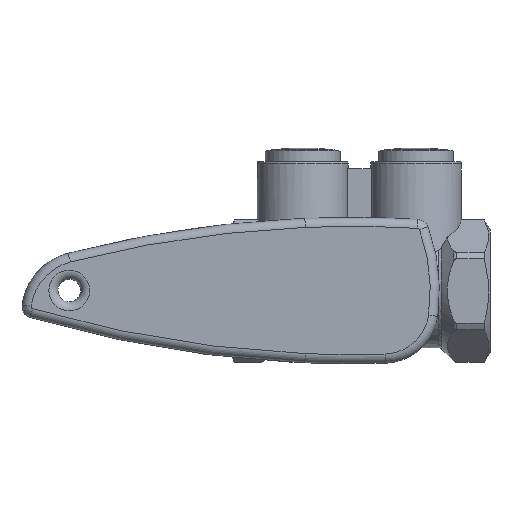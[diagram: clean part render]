
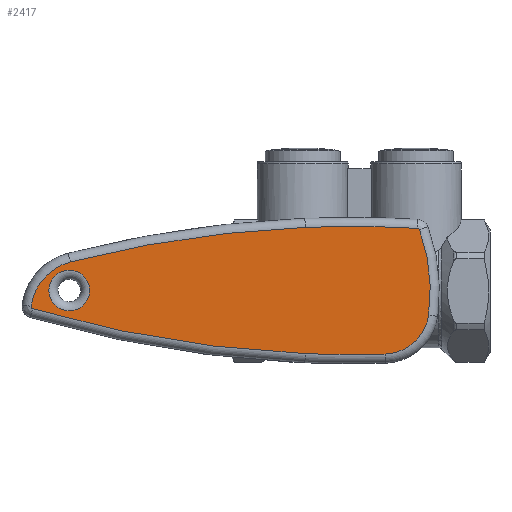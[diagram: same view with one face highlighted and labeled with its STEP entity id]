
A CAD part, top view. The second image highlights one B-rep face of the part: STEP entity #2417.
In plain terms, the highlighted planar face has unit normal (0, 0, 1).
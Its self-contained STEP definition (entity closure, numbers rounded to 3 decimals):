
#148=FACE_BOUND('',#438,.T.);
#180=PLANE('',#2722);
#286=FACE_OUTER_BOUND('',#437,.T.);
#437=EDGE_LOOP('',(#2069,#2070,#2071,#2072,#2073,#2074,#2075,#2076,#2077));
#438=EDGE_LOOP('',(#2078));
#616=CIRCLE('',#2719,4.498);
#619=CIRCLE('',#2723,252.306);
#620=CIRCLE('',#2724,11.669);
#621=CIRCLE('',#2725,0.5);
#622=CIRCLE('',#2726,252.163);
#623=CIRCLE('',#2727,251.926);
#624=CIRCLE('',#2728,9.993);
#625=CIRCLE('',#2729,38.627);
#626=CIRCLE('',#2730,0.5);
#627=CIRCLE('',#2731,251.926);
#1093=VERTEX_POINT('',#4530);
#1095=VERTEX_POINT('',#4536);
#1096=VERTEX_POINT('',#4537);
#1097=VERTEX_POINT('',#4539);
#1098=VERTEX_POINT('',#4541);
#1099=VERTEX_POINT('',#4543);
#1100=VERTEX_POINT('',#4545);
#1101=VERTEX_POINT('',#4547);
#1102=VERTEX_POINT('',#4549);
#1103=VERTEX_POINT('',#4551);
#1430=EDGE_CURVE('',#1093,#1093,#616,.T.);
#1433=EDGE_CURVE('',#1095,#1096,#619,.T.);
#1434=EDGE_CURVE('',#1097,#1095,#620,.T.);
#1435=EDGE_CURVE('',#1098,#1097,#621,.T.);
#1436=EDGE_CURVE('',#1099,#1098,#622,.T.);
#1437=EDGE_CURVE('',#1100,#1099,#623,.T.);
#1438=EDGE_CURVE('',#1101,#1100,#624,.T.);
#1439=EDGE_CURVE('',#1102,#1101,#625,.T.);
#1440=EDGE_CURVE('',#1103,#1102,#626,.T.);
#1441=EDGE_CURVE('',#1096,#1103,#627,.T.);
#2069=ORIENTED_EDGE('',*,*,#1433,.F.);
#2070=ORIENTED_EDGE('',*,*,#1434,.F.);
#2071=ORIENTED_EDGE('',*,*,#1435,.F.);
#2072=ORIENTED_EDGE('',*,*,#1436,.F.);
#2073=ORIENTED_EDGE('',*,*,#1437,.F.);
#2074=ORIENTED_EDGE('',*,*,#1438,.F.);
#2075=ORIENTED_EDGE('',*,*,#1439,.F.);
#2076=ORIENTED_EDGE('',*,*,#1440,.F.);
#2077=ORIENTED_EDGE('',*,*,#1441,.F.);
#2078=ORIENTED_EDGE('',*,*,#1430,.F.);
#2417=ADVANCED_FACE('',(#286,#148),#180,.T.);
#2719=AXIS2_PLACEMENT_3D('',#4531,#3360,#3361);
#2722=AXIS2_PLACEMENT_3D('',#4535,#3366,#3367);
#2723=AXIS2_PLACEMENT_3D('',#4538,#3368,#3369);
#2724=AXIS2_PLACEMENT_3D('',#4540,#3370,#3371);
#2725=AXIS2_PLACEMENT_3D('',#4542,#3372,#3373);
#2726=AXIS2_PLACEMENT_3D('',#4544,#3374,#3375);
#2727=AXIS2_PLACEMENT_3D('',#4546,#3376,#3377);
#2728=AXIS2_PLACEMENT_3D('',#4548,#3378,#3379);
#2729=AXIS2_PLACEMENT_3D('',#4550,#3380,#3381);
#2730=AXIS2_PLACEMENT_3D('',#4552,#3382,#3383);
#2731=AXIS2_PLACEMENT_3D('',#4553,#3384,#3385);
#3360=DIRECTION('center_axis',(0.,0.,1.));
#3361=DIRECTION('ref_axis',(-1.,0.,0.));
#3366=DIRECTION('center_axis',(0.,0.,1.));
#3367=DIRECTION('ref_axis',(1.,0.,0.));
#3368=DIRECTION('center_axis',(0.,0.,-1.));
#3369=DIRECTION('ref_axis',(-0.146,0.989,0.));
#3370=DIRECTION('center_axis',(0.,0.,-1.));
#3371=DIRECTION('ref_axis',(-0.748,0.664,0.));
#3372=DIRECTION('center_axis',(0.,0.,-1.));
#3373=DIRECTION('ref_axis',(-0.838,-0.546,0.));
#3374=DIRECTION('center_axis',(0.,0.,-1.));
#3375=DIRECTION('ref_axis',(-0.162,-0.987,0.));
#3376=DIRECTION('center_axis',(0.,0.,-1.));
#3377=DIRECTION('ref_axis',(-0.005,-1.,0.));
#3378=DIRECTION('center_axis',(0.,0.,-1.));
#3379=DIRECTION('ref_axis',(0.667,-0.745,0.));
#3380=DIRECTION('center_axis',(0.,0.,-1.));
#3381=DIRECTION('ref_axis',(0.994,0.106,0.));
#3382=DIRECTION('center_axis',(0.,0.,-1.));
#3383=DIRECTION('ref_axis',(0.595,0.804,0.));
#3384=DIRECTION('center_axis',(0.,0.,-1.));
#3385=DIRECTION('ref_axis',(0.009,1.,0.));
#4530=CARTESIAN_POINT('',(-59.493,0.,75.));
#4531=CARTESIAN_POINT('Origin',(-63.991,0.,
75.));
#4535=CARTESIAN_POINT('Origin',(-25.369,0.078,75.));
#4536=CARTESIAN_POINT('',(-63.738,6.304,75.));
#4537=CARTESIAN_POINT('',(-11.947,13.924,75.));
#4538=CARTESIAN_POINT('Origin',(-1.313,-238.158,75.));
#4539=CARTESIAN_POINT('',(-72.417,-3.479,75.));
#4540=CARTESIAN_POINT('Origin',(-60.848,-5.001,75.));
#4541=CARTESIAN_POINT('',(-72.061,-4.024,75.));
#4542=CARTESIAN_POINT('Origin',(-71.921,-3.544,75.));
#4543=CARTESIAN_POINT('',(-11.948,-13.924,75.));
#4544=CARTESIAN_POINT('Origin',(-1.33,238.015,75.));
#4545=CARTESIAN_POINT('',(5.645,-14.017,75.));
#4546=CARTESIAN_POINT('Origin',(-1.826,237.798,75.));
#4547=CARTESIAN_POINT('',(15.243,-5.433,75.));
#4548=CARTESIAN_POINT('Origin',(5.35,-4.028,75.));
#4549=CARTESIAN_POINT('',(13.237,13.377,75.));
#4550=CARTESIAN_POINT('Origin',(-23.,0.,
75.));
#4551=CARTESIAN_POINT('',(12.797,13.703,75.));
#4552=CARTESIAN_POINT('Origin',(12.768,13.204,75.));
#4553=CARTESIAN_POINT('Origin',(-1.826,-237.798,75.));
